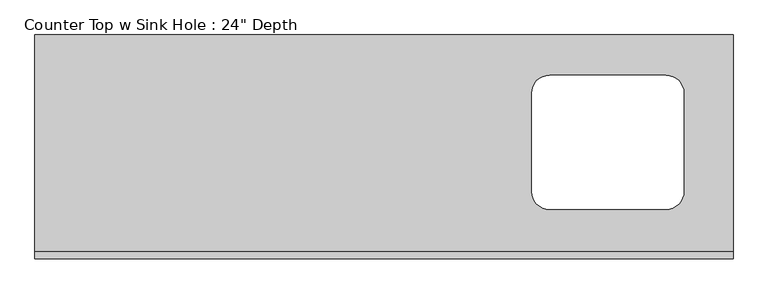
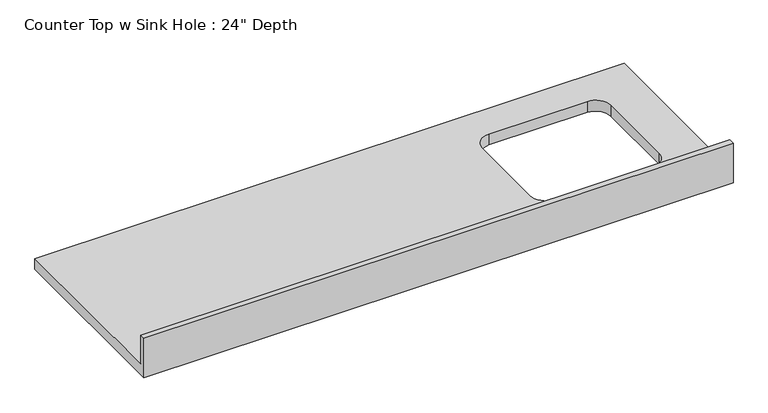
"""IFC4 building model written with IfcOpenShell, lengths in millimetres: furniture geometry."""

from ifc_helpers import new_model, si_unit, frame, origin, place, context, project, spatial, polyline, circle_curve, source, transform, mapped, element, save
from ifc_brep_helpers import plane_surface, revolved_surface, advanced_brep


def furniture_6db689a5(model_context):
    return source(origin(), model_context, "Body", "AdvancedBrep", [
        advanced_brep(
        [(-1200.4622951, 635.0, 914.4), (-1200.4622951, 19.05, 914.4), (780.7377049, 19.05, 914.4), (780.7377049, 635.0, 914.4), (260.0377049, 139.7, 914.4), (209.2377049, 190.5, 914.4), (209.2377049, 469.9, 914.4), (260.0377049, 520.7, 914.4), (590.2377049, 520.7, 914.4), (641.0377049, 469.9, 914.4), (641.0377049, 190.5, 914.4), (590.2377049, 139.7, 914.4), (780.7377049, 0.0, 876.3), (-1200.4622951, 0.0, 876.3), (-1200.4622951, 635.0, 876.3), (780.7377049, 635.0, 876.3), (590.2377049, 139.7, 876.3), (641.0377049, 190.5, 876.3), (641.0377049, 469.9, 876.3), (590.2377049, 520.7, 876.3), (260.0377049, 520.7, 876.3), (209.2377049, 469.9, 876.3), (209.2377049, 190.5, 876.3), (260.0377049, 139.7, 876.3), (780.7377049, 0.0, 1016.0), (-1200.4622951, 0.0, 1016.0), (-1200.4622951, 19.05, 1016.0), (780.7377049, 19.05, 1016.0)],
        [
            (0, 1),
            (1, 2),
            (2, 3),
            (3, 0),
            (4, 5, circle_curve(frame((260.0377049, 190.5, 914.4), z_axis=(0.0, 0.0, -1.0), x_axis=(1.0, 0.0, 0.0)), 50.8)),
            (5, 6),
            (6, 7, circle_curve(frame((260.0377049, 469.9, 914.4), z_axis=(0.0, 0.0, -1.0), x_axis=(1.0, 0.0, 0.0)), 50.8)),
            (7, 8),
            (8, 9, circle_curve(frame((590.2377049, 469.9, 914.4), z_axis=(0.0, 0.0, -1.0), x_axis=(1.0, 0.0, 0.0)), 50.8)),
            (9, 10),
            (10, 11, circle_curve(frame((590.2377049, 190.5, 914.4), z_axis=(0.0, 0.0, -1.0), x_axis=(1.0, 0.0, 0.0)), 50.8)),
            (11, 4),
            (12, 13),
            (13, 14),
            (14, 15),
            (15, 12),
            (16, 17, circle_curve(frame((590.2377049, 190.5, 876.3), z_axis=(0.0, 0.0, 1.0), x_axis=(1.0, 0.0, 0.0)), 50.8)),
            (17, 18),
            (18, 19, circle_curve(frame((590.2377049, 469.9, 876.3), z_axis=(0.0, 0.0, 1.0), x_axis=(1.0, 0.0, 0.0)), 50.8)),
            (19, 20),
            (20, 21, circle_curve(frame((260.0377049, 469.9, 876.3), z_axis=(0.0, 0.0, 1.0), x_axis=(1.0, 0.0, 0.0)), 50.8)),
            (21, 22),
            (22, 23, circle_curve(frame((260.0377049, 190.5, 876.3), z_axis=(0.0, 0.0, 1.0), x_axis=(1.0, 0.0, 0.0)), 50.8)),
            (23, 16),
            (12, 24),
            (24, 25),
            (25, 13),
            (25, 26),
            (26, 1),
            (0, 14),
            (3, 15),
            (2, 27),
            (27, 24),
            (11, 16),
            (23, 4),
            (22, 5),
            (21, 6),
            (20, 7),
            (19, 8),
            (18, 9),
            (17, 10),
            (27, 26),
        ],
        [
            plane_surface(frame((-1200.4622951, 0.0, 914.4), z_axis=(0.0, 0.0, 1.0), x_axis=(-1.0, 0.0, 0.0))),
            plane_surface(frame((-1200.4622951, 0.0, 876.3), z_axis=(0.0, 0.0, -1.0), x_axis=(1.0, 0.0, 0.0))),
            plane_surface(frame((780.7377049, 0.0, 914.4), z_axis=(0.0, -1.0, 0.0), x_axis=(0.0, 0.0, -1.0))),
            plane_surface(frame((-1200.4622951, 0.0, 914.4), z_axis=(-1.0, 0.0, 0.0), x_axis=(0.0, 0.0, -1.0))),
            plane_surface(frame((-1200.4622951, 635.0, 914.4), z_axis=(0.0, 1.0, 0.0), x_axis=(0.0, 0.0, -1.0))),
            plane_surface(frame((780.7377049, 635.0, 914.4), z_axis=(1.0, 0.0, 0.0), x_axis=(0.0, 0.0, -1.0))),
            plane_surface(frame((590.2377049, 139.7, 914.4), z_axis=(0.0, 1.0, 0.0), x_axis=(0.0, 0.0, -1.0))),
            revolved_surface(polyline([(310.8377049, 190.5, 914.4), (310.8377049, 190.5, 876.3)]), (260.0377049, 190.5, 876.3), (0.0, 0.0, 1.0)),
            plane_surface(frame((209.2377049, 190.5, 914.4), z_axis=(1.0, 0.0, 0.0), x_axis=(0.0, 0.0, -1.0))),
            revolved_surface(polyline([(310.8377049, 469.9, 914.4), (310.8377049, 469.9, 876.3)]), (260.0377049, 469.9, 876.3), (0.0, 0.0, 1.0)),
            plane_surface(frame((260.0377049, 520.7, 914.4), z_axis=(0.0, -1.0, 0.0), x_axis=(0.0, 0.0, -1.0))),
            revolved_surface(polyline([(641.0377049, 469.9, 914.4), (641.0377049, 469.9, 876.3)]), (590.2377049, 469.9, 876.3), (0.0, 0.0, 1.0)),
            plane_surface(frame((641.0377049, 469.9, 914.4), z_axis=(-1.0, 0.0, 0.0), x_axis=(0.0, 0.0, -1.0))),
            revolved_surface(polyline([(641.0377049, 190.5, 914.4), (641.0377049, 190.5, 876.3)]), (590.2377049, 190.5, 876.3), (0.0, 0.0, 1.0)),
            plane_surface(frame((-1200.4622951, 0.0, 1016.0), z_axis=(0.0, 0.0, 1.0), x_axis=(0.0, 1.0, 0.0))),
            plane_surface(frame((-1200.4622951, 19.05, 1016.0), z_axis=(0.0, 1.0, 0.0), x_axis=(0.0, 0.0, -1.0))),
        ],
        [
            (0, [[1, 2, 3, 4], [5, 6, 7, 8, 9, 10, 11, 12]]),
            (1, [[13, 14, 15, 16], [17, 18, 19, 20, 21, 22, 23, 24]]),
            (2, [[25, 26, 27, -13]]),
            (3, [[-27, 28, 29, -1, 30, -14]]),
            (4, [[31, -15, -30, -4]]),
            (5, [[-31, -3, 32, 33, -25, -16]]),
            (6, [[-12, 34, -24, 35]]),
            (7, [[-23, 36, -5, -35]]),
            (8, [[-22, 37, -6, -36]]),
            (9, [[-21, 38, -7, -37]]),
            (10, [[-20, 39, -8, -38]]),
            (11, [[-19, 40, -9, -39]]),
            (12, [[-18, 41, -10, -40]]),
            (13, [[-11, -41, -17, -34]]),
            (14, [[-26, -33, 42, -28]]),
            (15, [[-32, -2, -29, -42]]),
        ],
    ),
    ])


if __name__ == "__main__":
    model = new_model("IFC4")
    model_context = context("Model", 3, world=origin())
    ifc_project = project(units=[si_unit("LENGTHUNIT", "METRE", prefix="MILLI")], contexts=[model_context])
    site = spatial("IfcSite", under=ifc_project)
    building = spatial("IfcBuilding", under=site)
    placement = place(None, origin())
    furniture_shape = furniture_6db689a5(model_context)
    element("IfcFurniture", 1, ObjectType="Counter Top w Sink Hole : 24\" Depth", at=placement, inside=building, context=model_context, shape_type="MappedRepresentation", body=[
        mapped(furniture_shape, transform((0.0, 0.0, 0.0), x_axis=(1.0, 0.0, 0.0), y_axis=(0.0, 1.0, 0.0), z_axis=(0.0, 0.0, 1.0))),
    ])
    save(model, "model.ifc")
